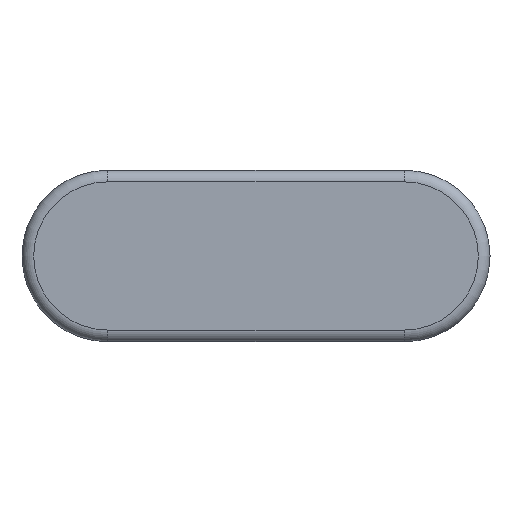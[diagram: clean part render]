
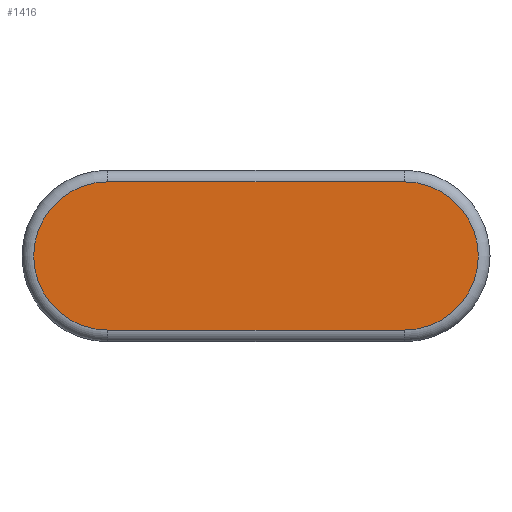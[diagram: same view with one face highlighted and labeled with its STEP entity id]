
A CAD part, top view. The second image highlights one B-rep face of the part: STEP entity #1416.
In plain terms, the highlighted planar face has unit normal (0, 0, 1).
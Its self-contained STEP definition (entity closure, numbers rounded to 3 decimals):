
#313=CARTESIAN_POINT('',(8.4,-11.3,11.));
#314=VERTEX_POINT('',#313);
#315=CARTESIAN_POINT('',(8.4,-7.5,11.));
#316=VERTEX_POINT('',#315);
#317=CARTESIAN_POINT('',(8.4,-9.4,11.));
#318=DIRECTION('',(0.0,0.0,-1.0));
#319=DIRECTION('',(-1.0,0.0,0.0));
#320=AXIS2_PLACEMENT_3D('',#317,#318,#319);
#321=CIRCLE('',#320,1.9);
#322=EDGE_CURVE('',#314,#316,#321,.T.);
#347=CARTESIAN_POINT('',(16.,-11.3,11.));
#348=VERTEX_POINT('',#347);
#358=CARTESIAN_POINT('',(16.,-11.3,11.));
#359=DIRECTION('',(-1.0,0.0,0.0));
#360=VECTOR('',#359,7.6);
#361=LINE('',#358,#360);
#362=EDGE_CURVE('',#348,#314,#361,.T.);
#380=CARTESIAN_POINT('',(16.,-7.5,11.));
#381=VERTEX_POINT('',#380);
#382=CARTESIAN_POINT('',(8.4,-7.5,11.));
#383=DIRECTION('',(1.0,0.0,0.0));
#384=VECTOR('',#383,7.6);
#385=LINE('',#382,#384);
#386=EDGE_CURVE('',#316,#381,#385,.T.);
#419=CARTESIAN_POINT('',(16.,-9.4,11.));
#420=DIRECTION('',(0.0,0.0,-1.0));
#421=DIRECTION('',(1.0,0.0,0.0));
#422=AXIS2_PLACEMENT_3D('',#419,#420,#421);
#423=CIRCLE('',#422,1.9);
#424=EDGE_CURVE('',#381,#348,#423,.T.);
#1405=CARTESIAN_POINT('',(12.2,-9.4,11.));
#1406=DIRECTION('',(0.0,0.0,1.0));
#1407=DIRECTION('',(1.0,0.0,0.0));
#1408=AXIS2_PLACEMENT_3D('',#1405,#1406,#1407);
#1409=PLANE('',#1408);
#1410=ORIENTED_EDGE('',*,*,#424,.F.);
#1411=ORIENTED_EDGE('',*,*,#386,.F.);
#1412=ORIENTED_EDGE('',*,*,#322,.F.);
#1413=ORIENTED_EDGE('',*,*,#362,.F.);
#1414=EDGE_LOOP('',(#1410,#1411,#1412,#1413));
#1415=FACE_OUTER_BOUND('',#1414,.T.);
#1416=ADVANCED_FACE('',(#1415),#1409,.T.);
